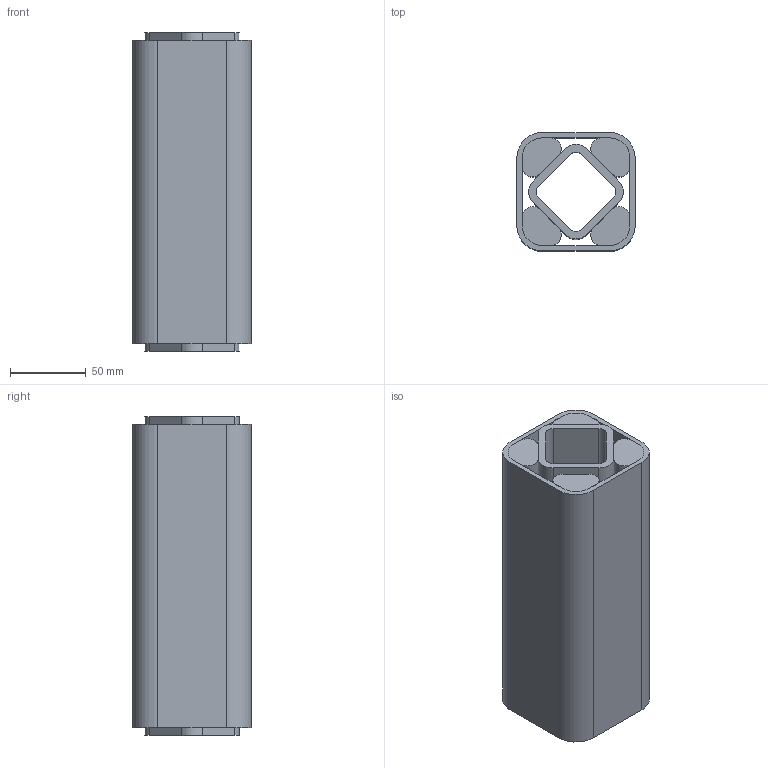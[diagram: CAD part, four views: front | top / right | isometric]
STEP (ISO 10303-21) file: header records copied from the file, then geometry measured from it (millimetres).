
FILE_DESCRIPTION((''),'2;1');
FILE_NAME('D:\ROSTA\Gummifederelemente\3D\DR-S50x200_01021020.stp','2005-02-02T16:55:09',('Administrator'),(''),'Autodesk Inventor 8','Autodesk Inventor 8','');
FILE_SCHEMA(('AUTOMOTIVE_DESIGN { 1 0 10303 214 1 1 1 1 }'));
Length unit declared in the file: millimetre
Products named in the file (4): Baugruppe4; 4.4.3731-005; 4.4.3731-006; 4.4.3731-007
Assembly tree (6 placements, depth 2):
  Baugruppe4
    4.4.3731-005
    4.4.3731-006
    4.4.3731-007  x4
Bounding box: 78 x 78 x 210 mm (x, y, z)
Volume: 748645.1 mm3; surface area: 251871.8 mm2
Topology: 6 solids, 6 shells, 68 faces, 168 edges, 112 vertices
Faces by surface type: plane 40, cylinder 28
Entity records: 1491 total; most frequent: DIRECTION 260, CARTESIAN_POINT 244, ORIENTED_EDGE 228, EDGE_CURVE 114, AXIS2_PLACEMENT_3D 92, VERTEX_POINT 76, VECTOR 76, LINE 76
